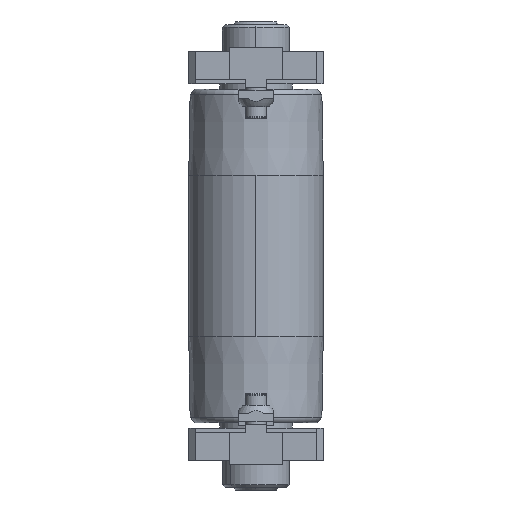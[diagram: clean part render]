
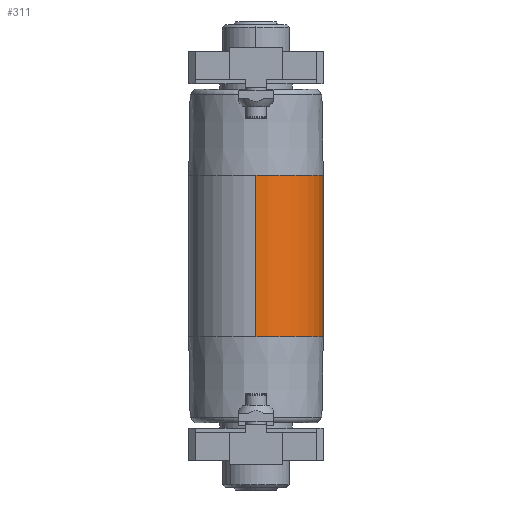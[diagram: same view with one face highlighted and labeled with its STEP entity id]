
A CAD part, left-side view. The second image highlights one B-rep face of the part: STEP entity #311.
In plain terms, the highlighted cylindrical face has radius 25 mm (diameter 50 mm), a partial arc.
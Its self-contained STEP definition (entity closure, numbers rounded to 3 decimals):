
#311 = ADVANCED_FACE ( 'NONE', ( #2317 ), #2321, .T. ) ;
#1555 = CARTESIAN_POINT ( 'NONE',  ( 160., 0., 30. ) ) ;
#1557 = CARTESIAN_POINT ( 'NONE',  ( 160., 0., -30. ) ) ;
#2317 = FACE_OUTER_BOUND ( 'NONE', #19351, .T. ) ;
#2321 = CYLINDRICAL_SURFACE ( 'NONE', #5026, 25. ) ;
#5026 = AXIS2_PLACEMENT_3D ( 'NONE', #7972, #8164, #8020 ) ;
#7655 = AXIS2_PLACEMENT_3D ( 'NONE', #9020, #9021, #9022 ) ;
#7665 = AXIS2_PLACEMENT_3D ( 'NONE', #9068, #9069, #9070 ) ;
#7673 = AXIS2_PLACEMENT_3D ( 'NONE', #9097, #9098, #9099 ) ;
#7675 = AXIS2_PLACEMENT_3D ( 'NONE', #9104, #9105, #9106 ) ;
#7972 = CARTESIAN_POINT ( 'NONE',  ( 185., 0., 60. ) ) ;
#8020 = DIRECTION ( 'NONE',  ( 1., 0., 0. ) ) ;
#8164 = DIRECTION ( 'NONE',  ( 0., 0., -1. ) ) ;
#8950 = CARTESIAN_POINT ( 'NONE',  ( 210., 0., 60. ) ) ;
#8951 = DIRECTION ( 'NONE',  ( 0., 0., -1. ) ) ;
#9020 = CARTESIAN_POINT ( 'NONE',  ( 185., 0., -30. ) ) ;
#9021 = DIRECTION ( 'NONE',  ( 0., 0., -1. ) ) ;
#9022 = DIRECTION ( 'NONE',  ( 0., 1., 0. ) ) ;
#9061 = CARTESIAN_POINT ( 'NONE',  ( 160., 0., 60. ) ) ;
#9062 = DIRECTION ( 'NONE',  ( 0., 0., -1. ) ) ;
#9068 = CARTESIAN_POINT ( 'NONE',  ( 185., 0., 30. ) ) ;
#9069 = DIRECTION ( 'NONE',  ( 0., 0., -1. ) ) ;
#9070 = DIRECTION ( 'NONE',  ( 0., 1., 0. ) ) ;
#9097 = CARTESIAN_POINT ( 'NONE',  ( 185., 0., 30. ) ) ;
#9098 = DIRECTION ( 'NONE',  ( 0., 0., -1. ) ) ;
#9099 = DIRECTION ( 'NONE',  ( 0., 1., 0. ) ) ;
#9104 = CARTESIAN_POINT ( 'NONE',  ( 185., 0., -30. ) ) ;
#9105 = DIRECTION ( 'NONE',  ( 0., 0., -1. ) ) ;
#9106 = DIRECTION ( 'NONE',  ( 0., 1., 0. ) ) ;
#9451 = ORIENTED_EDGE ( 'NONE', *, *, #13001, .F. ) ;
#11519 = CARTESIAN_POINT ( 'NONE',  ( 210., 0., -30. ) ) ;
#11530 = CARTESIAN_POINT ( 'NONE',  ( 185., -25., 30. ) ) ;
#11587 = CARTESIAN_POINT ( 'NONE',  ( 185., -25., -30. ) ) ;
#11594 = CARTESIAN_POINT ( 'NONE',  ( 210., 0., 30. ) ) ;
#12978 = EDGE_CURVE ( 'NONE', #20738, #20663, #16350, .T. ) ;
#13001 = EDGE_CURVE ( 'NONE', #20731, #20997, #16435, .T. ) ;
#13018 = EDGE_CURVE ( 'NONE', #20995, #20997, #16502, .T. ) ;
#13020 = EDGE_CURVE ( 'NONE', #20674, #20995, #16509, .T. ) ;
#13031 = EDGE_CURVE ( 'NONE', #20738, #20674, #16554, .T. ) ;
#13034 = EDGE_CURVE ( 'NONE', #20663, #20731, #16563, .T. ) ;
#14493 = ORIENTED_EDGE ( 'NONE', *, *, #13034, .F. ) ;
#14498 = ORIENTED_EDGE ( 'NONE', *, *, #12978, .F. ) ;
#14794 = ORIENTED_EDGE ( 'NONE', *, *, #13031, .T. ) ;
#15039 = ORIENTED_EDGE ( 'NONE', *, *, #13018, .T. ) ;
#15054 = ORIENTED_EDGE ( 'NONE', *, *, #13020, .T. ) ;
#16350 = LINE ( 'NONE', #8950, #16357 ) ;
#16357 = VECTOR ( 'NONE', #8951, 1000. ) ;
#16435 = CIRCLE ( 'NONE', #7655, 25. ) ;
#16502 = LINE ( 'NONE', #9061, #16512 ) ;
#16509 = CIRCLE ( 'NONE', #7665, 25. ) ;
#16512 = VECTOR ( 'NONE', #9062, 1000. ) ;
#16554 = CIRCLE ( 'NONE', #7673, 25. ) ;
#16563 = CIRCLE ( 'NONE', #7675, 25. ) ;
#19351 = EDGE_LOOP ( 'NONE', ( #14794, #15054, #15039, #9451, #14493, #14498 ) ) ;
#20663 = VERTEX_POINT ( 'NONE', #11519 ) ;
#20674 = VERTEX_POINT ( 'NONE', #11530 ) ;
#20731 = VERTEX_POINT ( 'NONE', #11587 ) ;
#20738 = VERTEX_POINT ( 'NONE', #11594 ) ;
#20995 = VERTEX_POINT ( 'NONE', #1555 ) ;
#20997 = VERTEX_POINT ( 'NONE', #1557 ) ;
